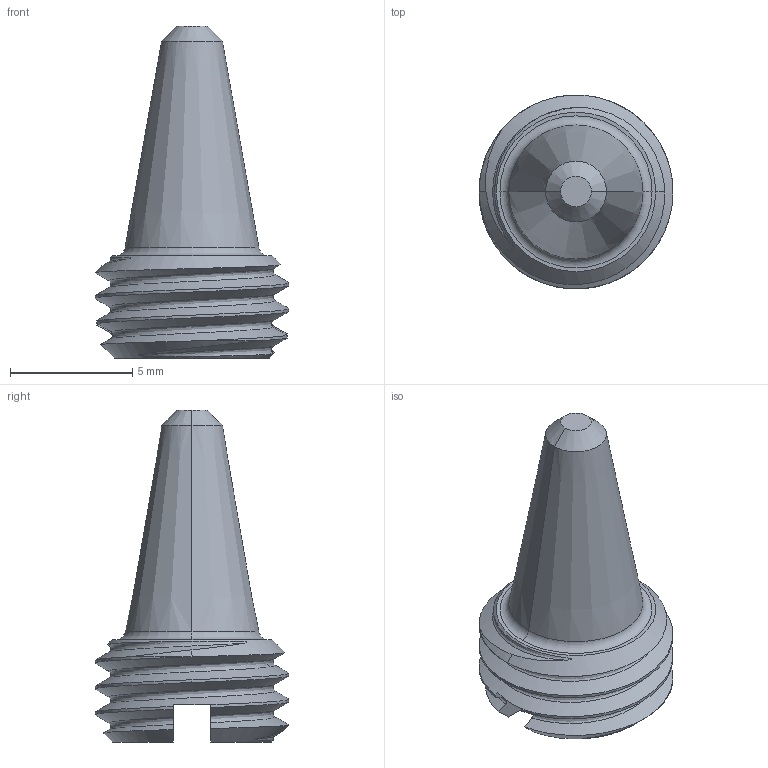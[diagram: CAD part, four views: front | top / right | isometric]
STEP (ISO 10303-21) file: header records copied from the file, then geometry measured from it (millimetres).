
FILE_DESCRIPTION (( 'STEP AP214' ), '1' );
FILE_NAME ('3DFSHB3120000A.STEP', '2021-03-31T18:19:50', ( '' ), ( '' ), 'SwSTEP 2.0', 'SolidWorks 2019', '' );
FILE_SCHEMA (( 'AUTOMOTIVE_DESIGN' ));
Length unit declared in the file: inch
Products named in the file (1): 3DFSHB3120000A
Bounding box: 7.94 x 7.93 x 13.59 mm (x, y, z)
Volume: 273 mm3; surface area: 328.3 mm2
Topology: 1 solids, 1 shells, 225 faces, 596 edges, 396 vertices
Faces by surface type: plane 118, bspline 90, cone 9, cylinder 6, torus 2
Entity records: 19334 total; most frequent: CARTESIAN_POINT 11989, ORIENTED_EDGE 1192, DIRECTION 669, EDGE_CURVE 596, VERTEX_POINT 396, VECTOR 365, LINE 365, EDGE_LOOP 248
